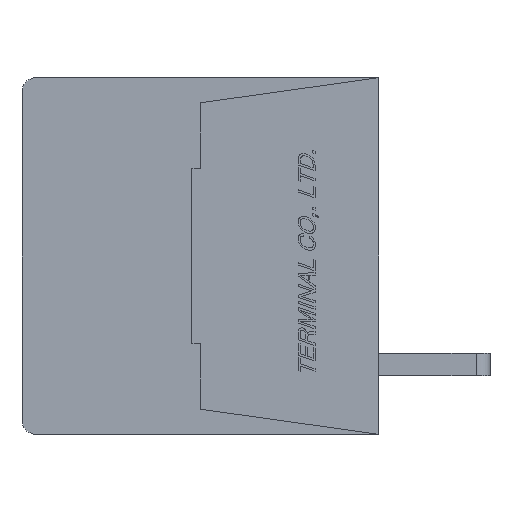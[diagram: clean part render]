
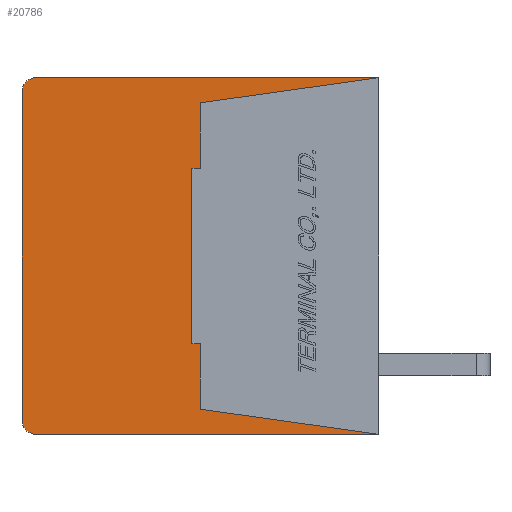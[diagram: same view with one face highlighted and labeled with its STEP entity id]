
A CAD part, left-side view. The second image highlights one B-rep face of the part: STEP entity #20786.
In plain terms, the highlighted planar face has unit normal (-1, 0, 0).
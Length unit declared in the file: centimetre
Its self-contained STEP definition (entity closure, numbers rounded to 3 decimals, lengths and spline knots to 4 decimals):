
#1105=CIRCLE('',#35390,0.05);
#1106=CIRCLE('',#35393,0.05);
#2080=VERTEX_POINT('',#29403);
#2081=VERTEX_POINT('',#29405);
#2082=VERTEX_POINT('',#29409);
#2083=VERTEX_POINT('',#29413);
#2084=VERTEX_POINT('',#29417);
#2085=VERTEX_POINT('',#29421);
#2086=VERTEX_POINT('',#29424);
#2087=VERTEX_POINT('',#29426);
#2088=VERTEX_POINT('',#29428);
#2089=VERTEX_POINT('',#29430);
#2090=VERTEX_POINT('',#29432);
#2091=VERTEX_POINT('',#29434);
#4239=VECTOR('',#24090,1.);
#4243=VECTOR('',#24099,1.);
#4246=VECTOR('',#24107,1.);
#4247=VECTOR('',#24108,1.);
#4248=VECTOR('',#24109,1.);
#4249=VECTOR('',#24110,1.);
#4250=VECTOR('',#24111,1.);
#4251=VECTOR('',#24112,1.);
#4252=VECTOR('',#24113,1.);
#4253=VECTOR('',#24114,1.);
#6688=LINE('',#29404,#4239);
#6692=LINE('',#29414,#4243);
#6695=LINE('',#29422,#4246);
#6696=LINE('',#29423,#4247);
#6697=LINE('',#29425,#4248);
#6698=LINE('',#29427,#4249);
#6699=LINE('',#29429,#4250);
#6700=LINE('',#29431,#4251);
#6701=LINE('',#29433,#4252);
#6702=LINE('',#29435,#4253);
#9471=EDGE_CURVE('',#2081,#2080,#6688,.T.);
#9474=EDGE_CURVE('',#2082,#2080,#1105,.T.);
#9476=EDGE_CURVE('',#2082,#2083,#6692,.T.);
#9478=EDGE_CURVE('',#2084,#2083,#1106,.T.);
#9480=EDGE_CURVE('',#2084,#2085,#6695,.T.);
#9481=EDGE_CURVE('',#2086,#2081,#6696,.T.);
#9482=EDGE_CURVE('',#2085,#2087,#6697,.T.);
#9483=EDGE_CURVE('',#2087,#2088,#6698,.T.);
#9484=EDGE_CURVE('',#2088,#2089,#6699,.T.);
#9485=EDGE_CURVE('',#2089,#2090,#6700,.T.);
#9486=EDGE_CURVE('',#2090,#2091,#6701,.T.);
#9487=EDGE_CURVE('',#2091,#2086,#6702,.T.);
#13760=ORIENTED_EDGE('',*,*,#9481,.T.);
#13761=ORIENTED_EDGE('',*,*,#9471,.T.);
#13762=ORIENTED_EDGE('',*,*,#9474,.F.);
#13763=ORIENTED_EDGE('',*,*,#9476,.T.);
#13764=ORIENTED_EDGE('',*,*,#9478,.F.);
#13765=ORIENTED_EDGE('',*,*,#9480,.T.);
#13766=ORIENTED_EDGE('',*,*,#9482,.T.);
#13767=ORIENTED_EDGE('',*,*,#9483,.T.);
#13768=ORIENTED_EDGE('',*,*,#9484,.T.);
#13769=ORIENTED_EDGE('',*,*,#9485,.T.);
#13770=ORIENTED_EDGE('',*,*,#9486,.T.);
#13771=ORIENTED_EDGE('',*,*,#9487,.T.);
#18144=EDGE_LOOP('',(#13760,#13761,#13762,#13763,#13764,#13765,#13766,#13767,
#13768,#13769,#13770,#13771));
#19495=FACE_BOUND('',#18144,.T.);
#20786=ADVANCED_FACE('',(#19495),#21866,.F.);
#21866=PLANE('',#35387);
#23976=DIRECTION('',(1.,0.,0.));
#24090=DIRECTION('',(0.,1.,0.));
#24095=DIRECTION('',(1.,0.,0.));
#24096=DIRECTION('',(0.,0.,-0.05));
#24099=DIRECTION('',(0.,0.,-1.));
#24103=DIRECTION('',(1.,0.,0.));
#24104=DIRECTION('',(0.,0.,-0.05));
#24107=DIRECTION('',(0.,-1.,0.));
#24108=DIRECTION('',(0.,-0.99,0.139));
#24109=DIRECTION('',(0.,0.99,0.139));
#24110=DIRECTION('',(0.,0.,1.));
#24111=DIRECTION('',(0.,1.,0.));
#24112=DIRECTION('',(0.,0.,1.));
#24113=DIRECTION('',(0.,-1.,0.));
#24114=DIRECTION('',(0.,0.,1.));
#28970=CARTESIAN_POINT('',(-0.889,0.6345,0.));
#29403=CARTESIAN_POINT('',(-0.889,1.23,0.64));
#29404=CARTESIAN_POINT('',(-0.889,0.,0.64));
#29405=CARTESIAN_POINT('',(-0.889,0.,0.64));
#29409=CARTESIAN_POINT('',(-0.889,1.28,0.59));
#29410=CARTESIAN_POINT('',(-0.889,1.23,0.59));
#29413=CARTESIAN_POINT('',(-0.889,1.28,-0.59));
#29414=CARTESIAN_POINT('',(-0.889,1.28,0.59));
#29417=CARTESIAN_POINT('',(-0.889,1.23,-0.64));
#29418=CARTESIAN_POINT('',(-0.889,1.23,-0.59));
#29421=CARTESIAN_POINT('',(-0.889,0.,-0.64));
#29422=CARTESIAN_POINT('',(-0.889,1.23,-0.64));
#29423=CARTESIAN_POINT('',(-0.889,0.64,0.55));
#29424=CARTESIAN_POINT('',(-0.889,0.64,0.55));
#29425=CARTESIAN_POINT('',(-0.889,0.,-0.64));
#29426=CARTESIAN_POINT('',(-0.889,0.64,-0.55));
#29427=CARTESIAN_POINT('',(-0.889,0.64,-0.55));
#29428=CARTESIAN_POINT('',(-0.889,0.64,-0.315));
#29429=CARTESIAN_POINT('',(-0.889,0.64,-0.315));
#29430=CARTESIAN_POINT('',(-0.889,0.67,-0.315));
#29431=CARTESIAN_POINT('',(-0.889,0.67,-0.315));
#29432=CARTESIAN_POINT('',(-0.889,0.67,0.315));
#29433=CARTESIAN_POINT('',(-0.889,0.67,0.315));
#29434=CARTESIAN_POINT('',(-0.889,0.64,0.315));
#29435=CARTESIAN_POINT('',(-0.889,0.64,0.315));
#35387=AXIS2_PLACEMENT_3D('',#28970,#23976,$);
#35390=AXIS2_PLACEMENT_3D('',#29410,#24095,#24096);
#35393=AXIS2_PLACEMENT_3D('',#29418,#24103,#24104);
